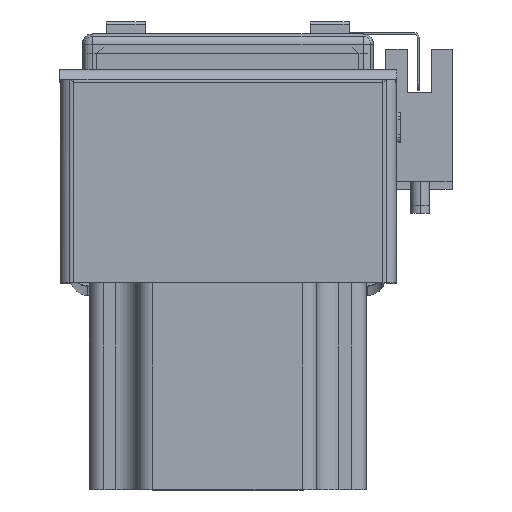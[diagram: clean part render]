
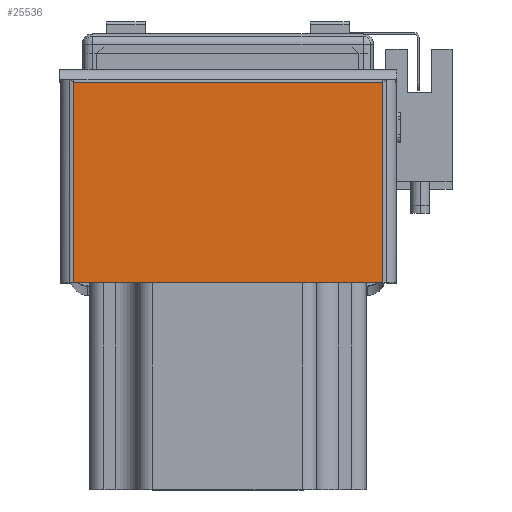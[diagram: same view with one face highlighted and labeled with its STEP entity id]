
A CAD part, top view. The second image highlights one B-rep face of the part: STEP entity #25536.
In plain terms, the highlighted planar face has unit normal (0, 0, 1) as drawn and (1, 0, 0) by its records, which use the part's own axes.
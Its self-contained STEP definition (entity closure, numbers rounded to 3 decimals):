
#1308 = CARTESIAN_POINT ( 'NONE',  ( 2., 0., -31.863 ) ) ;
#1313 = CARTESIAN_POINT ( 'NONE',  ( 2., 0., 31.863 ) ) ;
#1341 = CARTESIAN_POINT ( 'NONE',  ( 2., 41.263, -31.863 ) ) ;
#1352 = CARTESIAN_POINT ( 'NONE',  ( 2., 41.263, 31.863 ) ) ;
#8123 = AXIS2_PLACEMENT_3D ( 'NONE', #23365, #23426, #23375 ) ;
#13674 = FACE_OUTER_BOUND ( 'NONE', #34921, .T. ) ;
#18154 = LINE ( 'NONE', #24178, #18203 ) ;
#18186 = LINE ( 'NONE', #24249, #18205 ) ;
#18203 = VECTOR ( 'NONE', #24167, 1000. ) ;
#18205 = VECTOR ( 'NONE', #24219, 1000. ) ;
#18224 = VECTOR ( 'NONE', #24343, 1000. ) ;
#18227 = LINE ( 'NONE', #24304, #18224 ) ;
#18242 = LINE ( 'NONE', #24316, #18268 ) ;
#18268 = VECTOR ( 'NONE', #24336, 1000. ) ;
#23365 = CARTESIAN_POINT ( 'NONE',  ( 2., 42., -32.6 ) ) ;
#23375 = DIRECTION ( 'NONE',  ( 0., 0., 1. ) ) ;
#23388 = PLANE ( 'NONE',  #8123 ) ;
#23426 = DIRECTION ( 'NONE',  ( -1., 0., 0. ) ) ;
#24167 = DIRECTION ( 'NONE',  ( 0., -1., 0. ) ) ;
#24178 = CARTESIAN_POINT ( 'NONE',  ( 2., 42., -31.863 ) ) ;
#24219 = DIRECTION ( 'NONE',  ( 0., 0., -1. ) ) ;
#24249 = CARTESIAN_POINT ( 'NONE',  ( 2., 0., -32.6 ) ) ;
#24304 = CARTESIAN_POINT ( 'NONE',  ( 2., 42., 31.863 ) ) ;
#24316 = CARTESIAN_POINT ( 'NONE',  ( 2., 41.263, -31.863 ) ) ;
#24336 = DIRECTION ( 'NONE',  ( 0., 0., 1. ) ) ;
#24343 = DIRECTION ( 'NONE',  ( 0., -1., 0. ) ) ;
#25536 = ADVANCED_FACE ( 'NONE', ( #13674 ), #23388, .F. ) ;
#28234 = ORIENTED_EDGE ( 'NONE', *, *, #30414, .T. ) ;
#28290 = ORIENTED_EDGE ( 'NONE', *, *, #30441, .T. ) ;
#28300 = ORIENTED_EDGE ( 'NONE', *, *, #30403, .F. ) ;
#28334 = ORIENTED_EDGE ( 'NONE', *, *, #30448, .T. ) ;
#30403 = EDGE_CURVE ( 'NONE', #35050, #35026, #18154, .T. ) ;
#30414 = EDGE_CURVE ( 'NONE', #35015, #35026, #18186, .T. ) ;
#30441 = EDGE_CURVE ( 'NONE', #35066, #35015, #18227, .T. ) ;
#30448 = EDGE_CURVE ( 'NONE', #35050, #35066, #18242, .T. ) ;
#34921 = EDGE_LOOP ( 'NONE', ( #28334, #28290, #28234, #28300 ) ) ;
#35015 = VERTEX_POINT ( 'NONE', #1313 ) ;
#35026 = VERTEX_POINT ( 'NONE', #1308 ) ;
#35050 = VERTEX_POINT ( 'NONE', #1341 ) ;
#35066 = VERTEX_POINT ( 'NONE', #1352 ) ;
